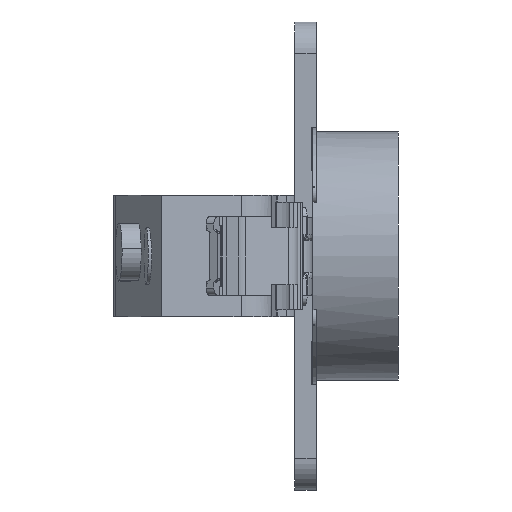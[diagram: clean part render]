
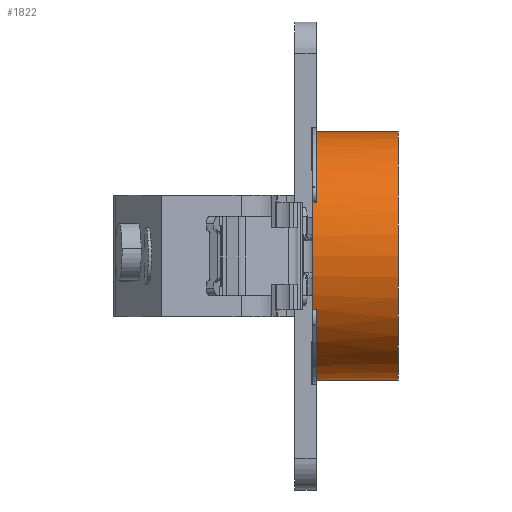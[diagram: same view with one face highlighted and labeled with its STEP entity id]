
A CAD part, left-side view. The second image highlights one B-rep face of the part: STEP entity #1822.
In plain terms, the highlighted cylindrical face has radius 17.4 mm (diameter 34.8 mm), a partial arc.
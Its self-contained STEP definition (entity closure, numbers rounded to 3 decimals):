
#511 = AXIS2_PLACEMENT_3D ( 'NONE', #1158, #3952, #6750 ) ;
#533 = B_SPLINE_CURVE_WITH_KNOTS ( 'NONE', 3,
 ( #2049, #4843, #4713, #6183 ),
 .UNSPECIFIED., .F., .F.,
 ( 4, 4 ),
 ( 0., 0.001 ),
 .UNSPECIFIED. ) ;
#563 = DIRECTION ( 'NONE',  ( 0., 0., 1. ) ) ;
#610 = DIRECTION ( 'NONE',  ( 0., 1., 0. ) ) ;
#901 = DIRECTION ( 'NONE',  ( 0., -1., 0. ) ) ;
#937 = DIRECTION ( 'NONE',  ( 0., -1., 0. ) ) ;
#1089 = AXIS2_PLACEMENT_3D ( 'NONE', #2017, #1381, #563 ) ;
#1158 = CARTESIAN_POINT ( 'NONE',  ( 35.661, 13.711, 0. ) ) ;
#1188 = CARTESIAN_POINT ( 'NONE',  ( 20.256, 14.211, 8.09 ) ) ;
#1381 = DIRECTION ( 'NONE',  ( 0., 1., 0. ) ) ;
#1471 = EDGE_CURVE ( 'NONE', #1956, #5208, #4583, .T. ) ;
#1643 = CARTESIAN_POINT ( 'NONE',  ( 19.96, 13.811, -7.5 ) ) ;
#1705 = DIRECTION ( 'NONE',  ( 0., 0., 1. ) ) ;
#1822 = ADVANCED_FACE ( 'NONE', ( #5948 ), #2512, .T. ) ;
#1836 = CARTESIAN_POINT ( 'NONE',  ( 20.256, 14.211, -8.09 ) ) ;
#1956 = VERTEX_POINT ( 'NONE', #6222 ) ;
#2006 = EDGE_CURVE ( 'NONE', #3911, #4327, #2804, .T. ) ;
#2017 = CARTESIAN_POINT ( 'NONE',  ( 35.661, 13.711, 0. ) ) ;
#2049 = CARTESIAN_POINT ( 'NONE',  ( 20.256, 14.211, 8.09 ) ) ;
#2252 = ORIENTED_EDGE ( 'NONE', *, *, #2541, .T. ) ;
#2441 = CARTESIAN_POINT ( 'NONE',  ( 19.96, 13.711, 7.5 ) ) ;
#2512 = CYLINDRICAL_SURFACE ( 'NONE', #3867, 17.4 ) ;
#2542 = VERTEX_POINT ( 'NONE', #6157 ) ;
#2541 = EDGE_CURVE ( 'NONE', #2542, #5208, #2767, .T. ) ;
#2543 = VECTOR ( 'NONE', #5507, 1000. ) ;
#2767 = LINE ( 'NONE', #4912, #2543 ) ;
#2799 = ORIENTED_EDGE ( 'NONE', *, *, #2006, .F. ) ;
#2804 = B_SPLINE_CURVE_WITH_KNOTS ( 'NONE', 3,
 ( #5385, #8221, #7518, #4029 ),
 .UNSPECIFIED., .F., .F.,
 ( 4, 4 ),
 ( 0.001, 0.002 ),
 .UNSPECIFIED. ) ;
#2951 = VECTOR ( 'NONE', #4659, 1000. ) ;
#3387 = VECTOR ( 'NONE', #3762, 1000. ) ;
#3526 = ORIENTED_EDGE ( 'NONE', *, *, #4165, .F. ) ;
#3762 = DIRECTION ( 'NONE',  ( 0., -1., 0. ) ) ;
#3824 = VECTOR ( 'NONE', #610, 1000. ) ;
#3867 = AXIS2_PLACEMENT_3D ( 'NONE', #7933, #901, #4378 ) ;
#3911 = VERTEX_POINT ( 'NONE', #6522 ) ;
#3934 = CARTESIAN_POINT ( 'NONE',  ( 35.661, 13.711, 17.4 ) ) ;
#3952 = DIRECTION ( 'NONE',  ( 0., 1., 0. ) ) ;
#4029 = CARTESIAN_POINT ( 'NONE',  ( 20.256, 14.211, -8.09 ) ) ;
#4046 = EDGE_CURVE ( 'NONE', #2542, #7911, #4155, .T. ) ;
#4155 = CIRCLE ( 'NONE', #511, 17.4 ) ;
#4165 = EDGE_CURVE ( 'NONE', #7363, #6673, #7395, .T. ) ;
#4327 = VERTEX_POINT ( 'NONE', #1836 ) ;
#4378 = DIRECTION ( 'NONE',  ( 0., 0., -1. ) ) ;
#4517 = CARTESIAN_POINT ( 'NONE',  ( 35.661, 63.425, 17.4 ) ) ;
#4542 = CARTESIAN_POINT ( 'NONE',  ( 35.661, 2.211, -17.4 ) ) ;
#4583 = CIRCLE ( 'NONE', #5750, 17.4 ) ;
#4659 = DIRECTION ( 'NONE',  ( 0., -1., 0. ) ) ;
#4713 = CARTESIAN_POINT ( 'NONE',  ( 20.055, 14.188, 7.698 ) ) ;
#4756 = CARTESIAN_POINT ( 'NONE',  ( 19.96, 13.711, -7.5 ) ) ;
#4843 = CARTESIAN_POINT ( 'NONE',  ( 20.153, 14.211, 7.894 ) ) ;
#4912 = CARTESIAN_POINT ( 'NONE',  ( 35.661, 63.425, -17.4 ) ) ;
#5004 = EDGE_CURVE ( 'NONE', #7437, #4327, #7029, .T. ) ;
#5048 = ORIENTED_EDGE ( 'NONE', *, *, #5765, .F. ) ;
#5174 = CARTESIAN_POINT ( 'NONE',  ( 35.661, 2.211, 0. ) ) ;
#5208 = VERTEX_POINT ( 'NONE', #4542 ) ;
#5276 = EDGE_CURVE ( 'NONE', #7363, #7407, #6846, .T. ) ;
#5296 = EDGE_LOOP ( 'NONE', ( #6218, #3526, #7182, #5048, #5576, #2799, #6529, #6955, #2252, #6685 ) ) ;
#5385 = CARTESIAN_POINT ( 'NONE',  ( 19.96, 14.163, -7.5 ) ) ;
#5417 = EDGE_CURVE ( 'NONE', #3911, #7911, #6374, .T. ) ;
#5507 = DIRECTION ( 'NONE',  ( 0., -1., 0. ) ) ;
#5576 = ORIENTED_EDGE ( 'NONE', *, *, #5004, .T. ) ;
#5750 = AXIS2_PLACEMENT_3D ( 'NONE', #5174, #8002, #7295 ) ;
#5765 = EDGE_CURVE ( 'NONE', #7437, #7407, #533, .T. ) ;
#5948 = FACE_OUTER_BOUND ( 'NONE', #5296, .T. ) ;
#5951 = LINE ( 'NONE', #4517, #2951 ) ;
#6157 = CARTESIAN_POINT ( 'NONE',  ( 35.661, 13.711, -17.4 ) ) ;
#6183 = CARTESIAN_POINT ( 'NONE',  ( 19.96, 14.163, 7.5 ) ) ;
#6218 = ORIENTED_EDGE ( 'NONE', *, *, #6669, .F. ) ;
#6222 = CARTESIAN_POINT ( 'NONE',  ( 35.661, 2.211, 17.4 ) ) ;
#6374 = LINE ( 'NONE', #1643, #3387 ) ;
#6522 = CARTESIAN_POINT ( 'NONE',  ( 19.96, 14.163, -7.5 ) ) ;
#6529 = ORIENTED_EDGE ( 'NONE', *, *, #5417, .T. ) ;
#6669 = EDGE_CURVE ( 'NONE', #6673, #1956, #5951, .T. ) ;
#6673 = VERTEX_POINT ( 'NONE', #3934 ) ;
#6685 = ORIENTED_EDGE ( 'NONE', *, *, #1471, .F. ) ;
#6750 = DIRECTION ( 'NONE',  ( 0., 0., 1. ) ) ;
#6846 = LINE ( 'NONE', #8422, #3824 ) ;
#6955 = ORIENTED_EDGE ( 'NONE', *, *, #4046, .F. ) ;
#7029 = CIRCLE ( 'NONE', #9110, 17.4 ) ;
#7182 = ORIENTED_EDGE ( 'NONE', *, *, #5276, .T. ) ;
#7295 = DIRECTION ( 'NONE',  ( 0., 0., -1. ) ) ;
#7363 = VERTEX_POINT ( 'NONE', #2441 ) ;
#7395 = CIRCLE ( 'NONE', #1089, 17.4 ) ;
#7407 = VERTEX_POINT ( 'NONE', #8156 ) ;
#7437 = VERTEX_POINT ( 'NONE', #1188 ) ;
#7518 = CARTESIAN_POINT ( 'NONE',  ( 20.153, 14.211, -7.894 ) ) ;
#7911 = VERTEX_POINT ( 'NONE', #4756 ) ;
#7933 = CARTESIAN_POINT ( 'NONE',  ( 35.661, 63.425, 0. ) ) ;
#8002 = DIRECTION ( 'NONE',  ( 0., -1., 0. ) ) ;
#8156 = CARTESIAN_POINT ( 'NONE',  ( 19.96, 14.163, 7.5 ) ) ;
#8221 = CARTESIAN_POINT ( 'NONE',  ( 20.055, 14.188, -7.698 ) ) ;
#8422 = CARTESIAN_POINT ( 'NONE',  ( 19.96, 13.811, 7.5 ) ) ;
#8570 = CARTESIAN_POINT ( 'NONE',  ( 35.661, 14.211, 0. ) ) ;
#9110 = AXIS2_PLACEMENT_3D ( 'NONE', #8570, #937, #1705 ) ;
